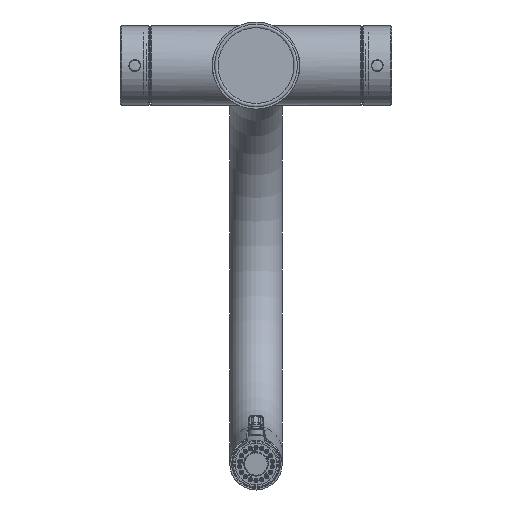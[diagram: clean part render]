
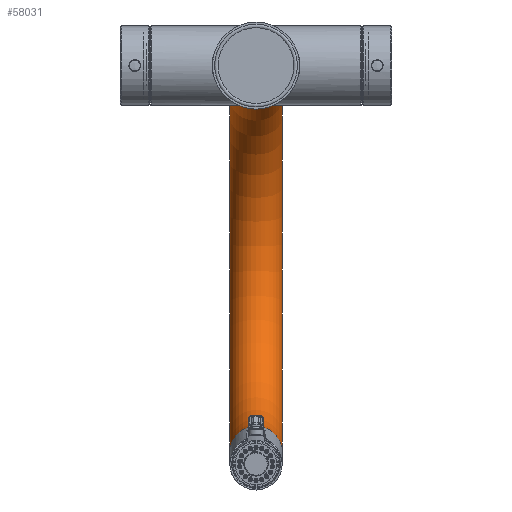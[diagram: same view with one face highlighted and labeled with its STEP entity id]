
A CAD part, front view. The second image highlights one B-rep face of the part: STEP entity #58031.
In plain terms, the highlighted toroidal (fillet/blend) face has major radius 111.232 mm and minor radius 14.999 mm.
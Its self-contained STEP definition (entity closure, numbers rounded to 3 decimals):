
#489=TOROIDAL_SURFACE('',#62012,111.232,14.999);
#11575=FACE_BOUND('',#16146,.T.);
#12610=FACE_OUTER_BOUND('',#16145,.T.);
#16145=EDGE_LOOP('',(#41227));
#16146=EDGE_LOOP('',(#41228));
#19684=CIRCLE('',#62008,14.999);
#19687=CIRCLE('',#62013,14.999);
#23839=VERTEX_POINT('',#120916);
#23842=VERTEX_POINT('',#120924);
#30172=EDGE_CURVE('',#23839,#23839,#19684,.T.);
#30175=EDGE_CURVE('',#23842,#23842,#19687,.T.);
#41227=ORIENTED_EDGE('',*,*,#30172,.T.);
#41228=ORIENTED_EDGE('',*,*,#30175,.F.);
#58031=ADVANCED_FACE('',(#12610,#11575),#489,.T.);
#62008=AXIS2_PLACEMENT_3D('',#120917,#70155,#70156);
#62012=AXIS2_PLACEMENT_3D('',#120923,#70163,#70164);
#62013=AXIS2_PLACEMENT_3D('',#120925,#70165,#70166);
#70155=DIRECTION('center_axis',(0.,1.,0.));
#70156=DIRECTION('ref_axis',(0.,0.,
1.));
#70163=DIRECTION('center_axis',(-1.,0.,0.));
#70164=DIRECTION('ref_axis',(0.,0.,1.));
#70165=DIRECTION('center_axis',(0.,-0.996,
-0.087));
#70166=DIRECTION('ref_axis',(0.,0.087,-0.996));
#120916=CARTESIAN_POINT('',(0.,295.295,-14.999));
#120917=CARTESIAN_POINT('Origin',(0.,295.295,0.));
#120923=CARTESIAN_POINT('Origin',(0.,295.295,-111.232));
#120924=CARTESIAN_POINT('',(0.,303.682,-207.099));
#120925=CARTESIAN_POINT('Origin',(0.,304.989,
-222.04));
